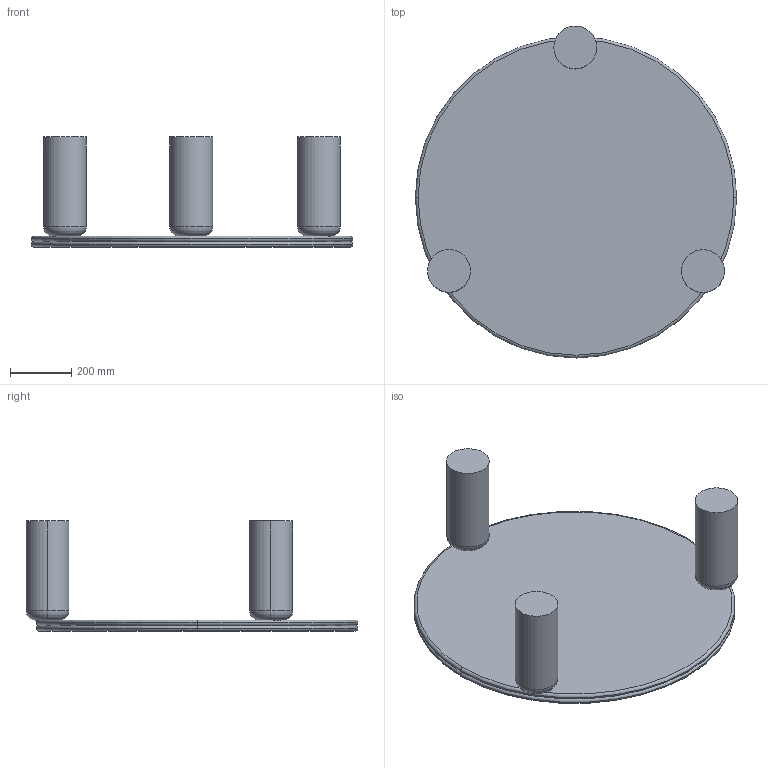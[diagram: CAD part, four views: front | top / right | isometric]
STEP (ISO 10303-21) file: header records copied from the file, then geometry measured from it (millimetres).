
FILE_DESCRIPTION (( 'STEP AP214' ), '1' );
FILE_NAME ('coffee table.STEP', '2026-08-17T01:22:33', ( '' ), ( '' ), 'SwSTEP 2.0', 'SolidWorks 2024', '' );
FILE_SCHEMA (( 'AUTOMOTIVE_DESIGN' ));
Length unit declared in the file: millimetre
Products named in the file (1): coffee table
Bounding box: 1050 x 1084.18 x 360 mm (x, y, z)
Volume: 45676300.5 mm3; surface area: 4032925.2 mm2
Topology: 5 solids, 5 shells, 30 faces, 50 edges, 30 vertices
Faces by surface type: torus 14, plane 10, cylinder 6
Entity records: 777 total; most frequent: DIRECTION 156, CARTESIAN_POINT 111, ORIENTED_EDGE 100, AXIS2_PLACEMENT_3D 75, EDGE_CURVE 50, CIRCLE 44, FACE_OUTER_BOUND 30, VERTEX_POINT 30
